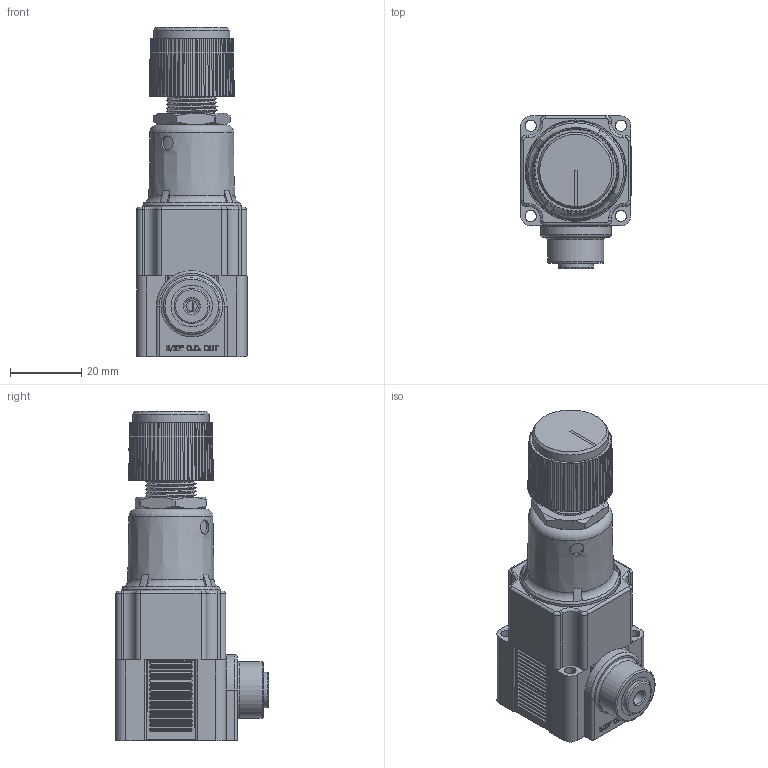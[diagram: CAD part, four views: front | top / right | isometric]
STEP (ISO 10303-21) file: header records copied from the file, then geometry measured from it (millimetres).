
FILE_DESCRIPTION(/* description */ (''),/* implementation_level */ '2;1');
FILE_NAME(/* name */ 'K:\Normteile INVENTOR\Air-Logic\Regulators\NR4000\NR 4___ 3 Push-In Fittings for 5''32 O.D. Tube Out.igs.ipt.stp',/* time_stamp */ '2020-05-27T10:50:47+02:00',/* author */ ('Paul'),/* organization */ (''),/* preprocessor_version */ 'ST-DEVELOPER v18',/* originating_system */ 'Autodesk Inventor 2020',/* authorisation */ '');
FILE_SCHEMA (('AUTOMOTIVE_DESIGN { 1 0 10303 214 3 1 1 }'));
Length unit declared in the file: inch
Products named in the file (1): NR 4___ 3 Push-In Fittings for 5'32 O.D. Tube Out.igs
Bounding box: 31.06 x 43.08 x 92.65 mm (x, y, z)
Volume: 57555.2 mm3; surface area: 19187.7 mm2
Topology: 1 solids, 1 shells, 1070 faces, 2766 edges, 1776 vertices
Faces by surface type: plane 519, cylinder 333, bspline 110, cone 82, torus 26
Full cylindrical faces by diameter (mm): 3.073 x1, 3.175 x4, 3.988 x1, 4.039 x1, 4.064 x1, 4.089 x1, 6.045 x1, 9.169 x1, 9.398 x1, 9.906 x1, 11.735 x1, 12.903 x1, 14.287 x2, 15.85 x1, 19.406 x1, 21.476 x1, 26.264 x1, 27.94 x1, 28.575 x1
Entity records: 42256 total; most frequent: CARTESIAN_POINT 15017, ORIENTED_EDGE 5532, DIRECTION 5390, EDGE_CURVE 2766, AXIS2_PLACEMENT_3D 2002, VERTEX_POINT 1776, LINE 1386, VECTOR 1386
